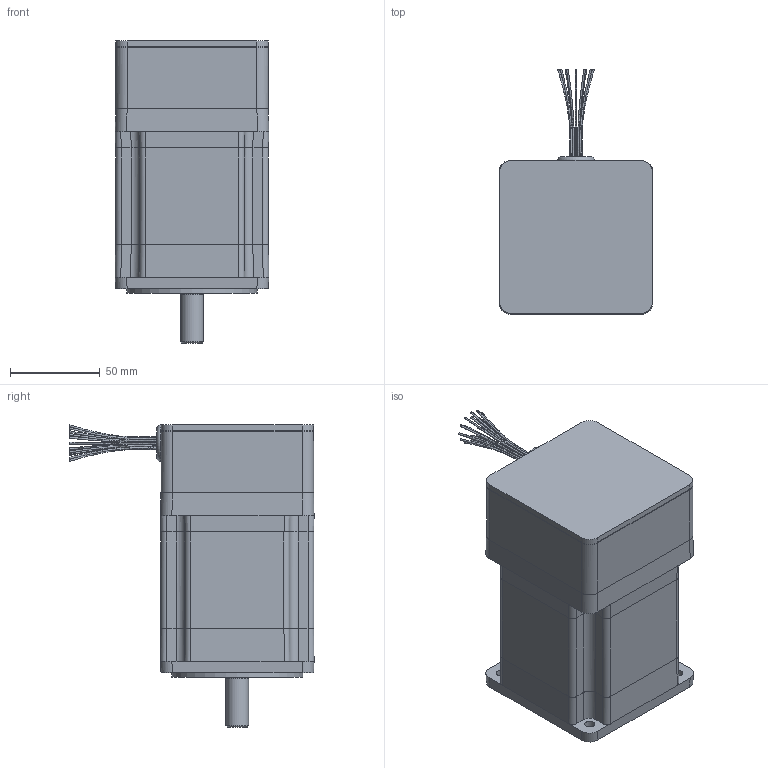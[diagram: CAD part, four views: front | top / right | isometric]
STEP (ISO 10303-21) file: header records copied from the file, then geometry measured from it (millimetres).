
FILE_DESCRIPTION((''),'2;1');
FILE_NAME('C:\CAD_work\Dummy_Modeling_Project_02-12-05\3D MODELS\BE342_FL.stp','2005-12-20T16:06:36',('jevans'),(''),'Autodesk Inventor 10','Autodesk Inventor 10','');
FILE_SCHEMA(('AUTOMOTIVE_DESIGN { 1 0 10303 214 1 1 1 1 }'));
Length unit declared in the file: inch
Products named in the file (1): BE34_FL
Bounding box: 85.66 x 136.17 x 168.53 mm (x, y, z)
Volume: 938698 mm3; surface area: 75358.5 mm2
Topology: 4 solids, 4 shells, 255 faces, 581 edges, 360 vertices
Faces by surface type: plane 140, cylinder 83, bspline 25, cone 6, torus 1
Full cylindrical faces by diameter (mm): 2.5 x2, 7.95 x1, 12.7 x1, 14.994 x1, 15 x1, 20.32 x1, 32 x1, 32.007 x1, 35.001 x1, 36.779 x1, 37.109 x1, 41.326 x3, 73.025 x1
Entity records: 9135 total; most frequent: CARTESIAN_POINT 3497, DIRECTION 1187, ORIENTED_EDGE 1084, EDGE_CURVE 542, AXIS2_PLACEMENT_3D 450, VERTEX_POINT 351, EDGE_LOOP 327, VECTOR 287
